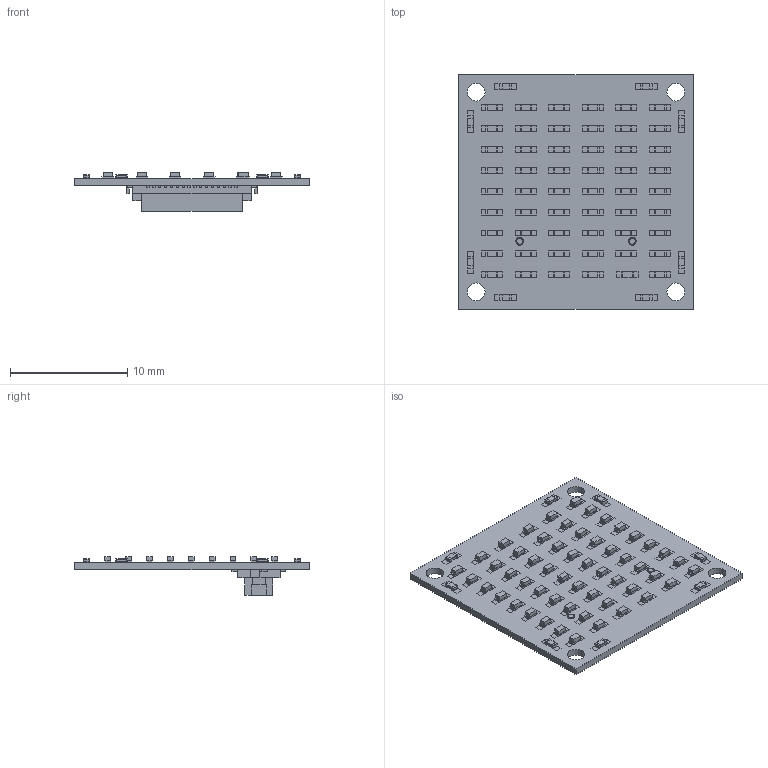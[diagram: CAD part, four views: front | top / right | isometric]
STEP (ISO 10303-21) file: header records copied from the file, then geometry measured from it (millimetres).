
FILE_DESCRIPTION(('FreeCAD Model'),'2;1');
FILE_NAME('/home/devy/MEGA/TinyCircuits/Assets/BoardsANDBoardModels_2/Shields/TinyCircuits-TinyShield-Matrix_Leds-ASD2413/cad/TinyShield_MATRIX_LED_ASD2413_REV2-STEP.step','2020-07-15T17:49:57',('Author'),('') ,'Open CASCADE STEP processor 7.4','FreeCAD','Unknown');
FILE_SCHEMA(('AUTOMOTIVE_DESIGN { 1 0 10303 214 1 1 1 1 }'));
Products named in the file (1): TinyShield_MATRIX_LED_ASD2413_REV2-STEP
Bounding box: 20 x 20 x 3.3 mm (x, y, z)
Volume: 294.8 mm3; surface area: 1578.9 mm2
Topology: 354 solids, 1314 shells, 4522 faces, 10119 edges, 7457 vertices
Faces by surface type: plane 4514, cylinder 8
Full cylindrical faces by diameter (mm): 0.5 x2, 0.652 x2, 1.502 x4
Entity records: 291706 total; most frequent: CARTESIAN_POINT 54994, DIRECTION 32780, LINE 23696, VECTOR 23696, ORIENTED_EDGE 18414, PCURVE 18414, DEFINITIONAL_REPRESENTATION 18414, EDGE_CURVE 10119
